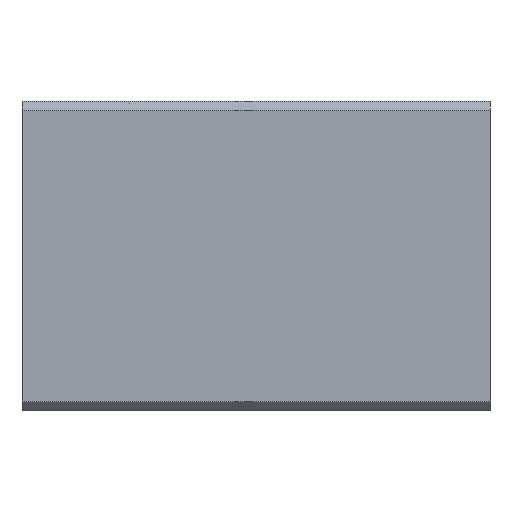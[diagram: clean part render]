
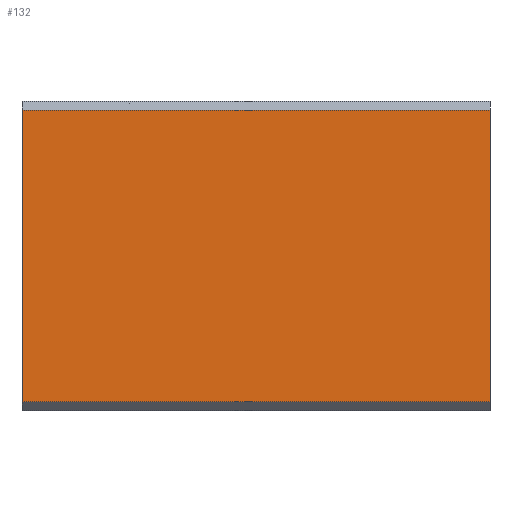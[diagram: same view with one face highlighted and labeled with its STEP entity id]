
A CAD part, front view. The second image highlights one B-rep face of the part: STEP entity #132.
In plain terms, the highlighted planar face has unit normal (0, -1, 0).
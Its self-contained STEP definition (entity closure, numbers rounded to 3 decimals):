
#132 = ADVANCED_FACE ( 'NONE', ( #5925 ), #15065, .F. ) ;
#844 = EDGE_LOOP ( 'NONE', ( #10797, #11118, #7197, #9596 ) ) ;
#896 = LINE ( 'NONE', #6800, #4079 ) ;
#1273 = DIRECTION ( 'NONE',  ( 0., 0., -1. ) ) ;
#1350 = VERTEX_POINT ( 'NONE', #9795 ) ;
#1652 = EDGE_CURVE ( 'NONE', #9641, #1350, #896, .T. ) ;
#2491 = VERTEX_POINT ( 'NONE', #6443 ) ;
#3066 = LINE ( 'NONE', #11669, #15443 ) ;
#4079 = VECTOR ( 'NONE', #9475, 1000. ) ;
#4615 = DIRECTION ( 'NONE',  ( 1., 0., 0. ) ) ;
#4941 = VECTOR ( 'NONE', #1273, 1000. ) ;
#4995 = CARTESIAN_POINT ( 'NONE',  ( 53., -17.5, 16.5 ) ) ;
#5114 = CARTESIAN_POINT ( 'NONE',  ( 53., -17.5, 17.5 ) ) ;
#5443 = LINE ( 'NONE', #9668, #4941 ) ;
#5584 = VECTOR ( 'NONE', #4615, 1000. ) ;
#5925 = FACE_OUTER_BOUND ( 'NONE', #844, .T. ) ;
#6443 = CARTESIAN_POINT ( 'NONE',  ( 0., -17.5, -16.5 ) ) ;
#6800 = CARTESIAN_POINT ( 'NONE',  ( 53., -17.5, 16.5 ) ) ;
#7197 = ORIENTED_EDGE ( 'NONE', *, *, #8525, .F. ) ;
#7518 = DIRECTION ( 'NONE',  ( 0., 1., 0. ) ) ;
#8525 = EDGE_CURVE ( 'NONE', #9641, #8672, #3066, .T. ) ;
#8672 = VERTEX_POINT ( 'NONE', #15488 ) ;
#9475 = DIRECTION ( 'NONE',  ( -1., 0., 0. ) ) ;
#9543 = EDGE_CURVE ( 'NONE', #1350, #2491, #5443, .T. ) ;
#9596 = ORIENTED_EDGE ( 'NONE', *, *, #1652, .T. ) ;
#9641 = VERTEX_POINT ( 'NONE', #4995 ) ;
#9668 = CARTESIAN_POINT ( 'NONE',  ( 0., -17.5, 17.5 ) ) ;
#9795 = CARTESIAN_POINT ( 'NONE',  ( 0., -17.5, 16.5 ) ) ;
#9931 = DIRECTION ( 'NONE',  ( 0., 0., 1. ) ) ;
#10797 = ORIENTED_EDGE ( 'NONE', *, *, #9543, .T. ) ;
#11118 = ORIENTED_EDGE ( 'NONE', *, *, #12965, .T. ) ;
#11669 = CARTESIAN_POINT ( 'NONE',  ( 53., -17.5, 17.5 ) ) ;
#12354 = LINE ( 'NONE', #15325, #5584 ) ;
#12635 = AXIS2_PLACEMENT_3D ( 'NONE', #5114, #7518, #9931 ) ;
#12918 = DIRECTION ( 'NONE',  ( 0., 0., -1. ) ) ;
#12965 = EDGE_CURVE ( 'NONE', #2491, #8672, #12354, .T. ) ;
#15065 = PLANE ( 'NONE',  #12635 ) ;
#15325 = CARTESIAN_POINT ( 'NONE',  ( 53., -17.5, -16.5 ) ) ;
#15443 = VECTOR ( 'NONE', #12918, 1000. ) ;
#15488 = CARTESIAN_POINT ( 'NONE',  ( 53., -17.5, -16.5 ) ) ;
